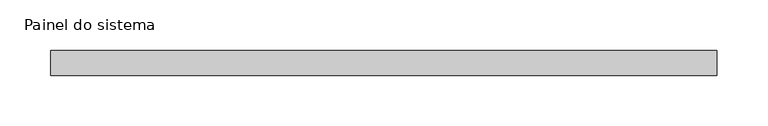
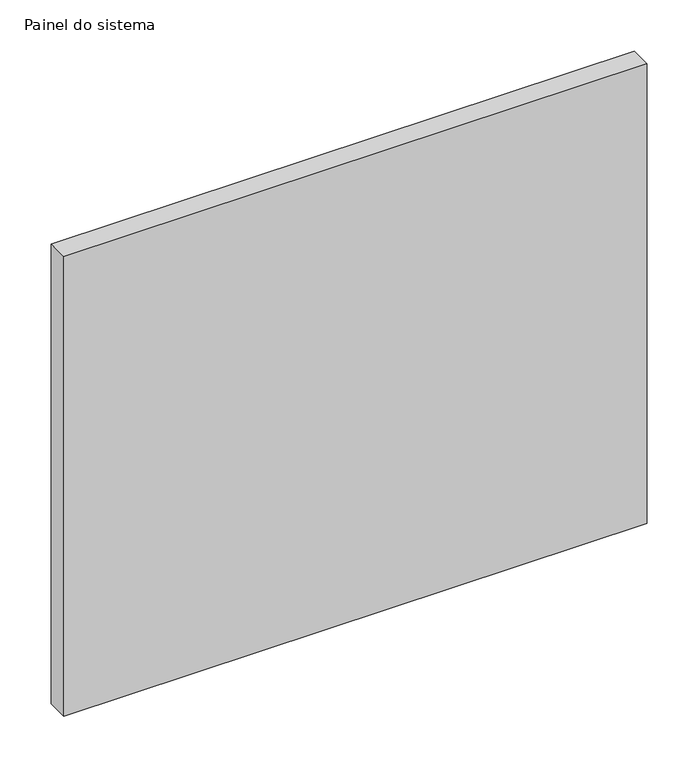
"""IFC4 building model written with IfcOpenShell, lengths in millimetres: plate geometry, Painel do sistema : Envidraçado."""

from ifc_helpers import new_model, si_unit, origin, origin_with_axes, place, context, project, spatial, polyline, outline, extrude, source, transform, mapped, element, save


def painel_do_sistema_6022865a(model_context):
    return source(origin(), model_context, "Body", "SweptSolid", [
        extrude(outline(polyline([(330.025, 24.5), (-330.025, 24.5), (-330.025, 49.5), (330.025, 49.5), (330.025, 24.5)])), origin_with_axes(), (0.0, 0.0, 1.0), 550.0),
    ])


if __name__ == "__main__":
    model = new_model("IFC4")
    model_context = context("Model", 3, world=origin())
    ifc_project = project(units=[si_unit("LENGTHUNIT", "METRE", prefix="MILLI")], contexts=[model_context])
    site = spatial("IfcSite", under=ifc_project)
    building = spatial("IfcBuilding", under=site)
    placement = place(None, origin())
    painel_do_sistema_shape = painel_do_sistema_6022865a(model_context)
    element("IfcPlate", 1, ObjectType="Painel do sistema : Envidraçado", at=placement, inside=building, context=model_context, shape_type="MappedRepresentation", body=[
        mapped(painel_do_sistema_shape, transform((0.0, 0.0, 0.0), x_axis=(1.0, 0.0, 0.0), y_axis=(0.0, 1.0, 0.0), z_axis=(0.0, 0.0, 1.0))),
    ])
    save(model, "model.ifc")
